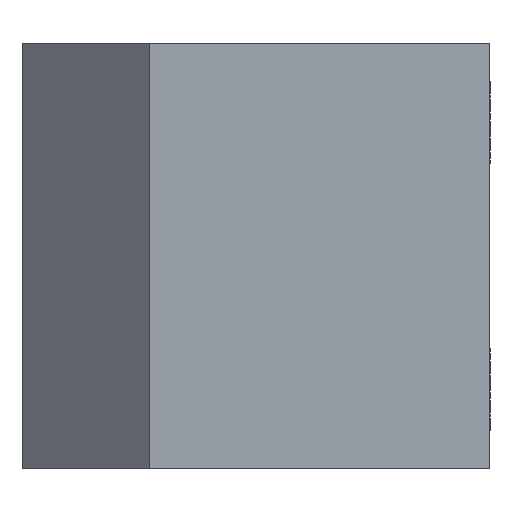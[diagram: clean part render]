
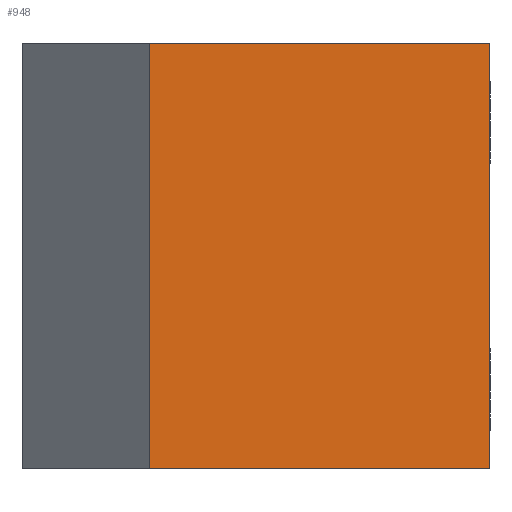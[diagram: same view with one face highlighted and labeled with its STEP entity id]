
A CAD part, left-side view. The second image highlights one B-rep face of the part: STEP entity #948.
In plain terms, the highlighted planar face has unit normal (-1, 0, 0).
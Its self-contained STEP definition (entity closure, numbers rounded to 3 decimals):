
#64 = EDGE_CURVE ( 'NONE', #591, #560, #1933, .T. ) ;
#126 = CARTESIAN_POINT ( 'NONE',  ( -31., 10., -20. ) ) ;
#173 = DIRECTION ( 'NONE',  ( -1., 0., 0. ) ) ;
#181 = ORIENTED_EDGE ( 'NONE', *, *, #1936, .F. ) ;
#227 = DIRECTION ( 'NONE',  ( 0., -1., 0. ) ) ;
#233 = LINE ( 'NONE', #1014, #1603 ) ;
#245 = DIRECTION ( 'NONE',  ( 0., 0., 1. ) ) ;
#251 = EDGE_CURVE ( 'NONE', #591, #1581, #281, .T. ) ;
#281 = LINE ( 'NONE', #126, #999 ) ;
#549 = FACE_OUTER_BOUND ( 'NONE', #1730, .T. ) ;
#560 = VERTEX_POINT ( 'NONE', #1628 ) ;
#591 = VERTEX_POINT ( 'NONE', #874 ) ;
#747 = DIRECTION ( 'NONE',  ( 0., 0., 1. ) ) ;
#778 = CARTESIAN_POINT ( 'NONE',  ( -31., -22., -20. ) ) ;
#788 = CARTESIAN_POINT ( 'NONE',  ( -31., -22., 20. ) ) ;
#854 = ORIENTED_EDGE ( 'NONE', *, *, #1190, .T. ) ;
#874 = CARTESIAN_POINT ( 'NONE',  ( -31., 10., -20. ) ) ;
#914 = VECTOR ( 'NONE', #1893, 1000. ) ;
#943 = LINE ( 'NONE', #1400, #914 ) ;
#948 = ADVANCED_FACE ( 'NONE', ( #549 ), #1093, .T. ) ;
#953 = VERTEX_POINT ( 'NONE', #788 ) ;
#999 = VECTOR ( 'NONE', #747, 1000. ) ;
#1014 = CARTESIAN_POINT ( 'NONE',  ( -31., -22., -20. ) ) ;
#1093 = PLANE ( 'NONE',  #1173 ) ;
#1173 = AXIS2_PLACEMENT_3D ( 'NONE', #778, #173, #1723 ) ;
#1190 = EDGE_CURVE ( 'NONE', #560, #953, #233, .T. ) ;
#1400 = CARTESIAN_POINT ( 'NONE',  ( -31., -22., 20. ) ) ;
#1581 = VERTEX_POINT ( 'NONE', #1715 ) ;
#1586 = ORIENTED_EDGE ( 'NONE', *, *, #64, .T. ) ;
#1603 = VECTOR ( 'NONE', #245, 1000. ) ;
#1617 = ORIENTED_EDGE ( 'NONE', *, *, #251, .F. ) ;
#1628 = CARTESIAN_POINT ( 'NONE',  ( -31., -22., -20. ) ) ;
#1715 = CARTESIAN_POINT ( 'NONE',  ( -31., 10., 20. ) ) ;
#1723 = DIRECTION ( 'NONE',  ( 0., -1., 0. ) ) ;
#1730 = EDGE_LOOP ( 'NONE', ( #1617, #1586, #854, #181 ) ) ;
#1789 = CARTESIAN_POINT ( 'NONE',  ( -31., -22., -20. ) ) ;
#1853 = VECTOR ( 'NONE', #227, 1000. ) ;
#1893 = DIRECTION ( 'NONE',  ( 0., -1., 0. ) ) ;
#1933 = LINE ( 'NONE', #1789, #1853 ) ;
#1936 = EDGE_CURVE ( 'NONE', #1581, #953, #943, .T. ) ;
